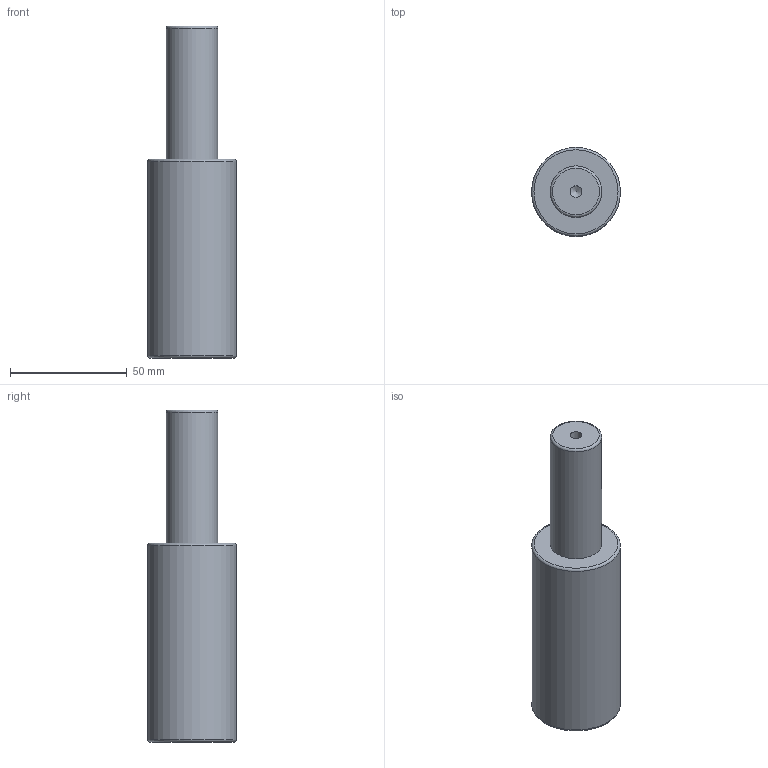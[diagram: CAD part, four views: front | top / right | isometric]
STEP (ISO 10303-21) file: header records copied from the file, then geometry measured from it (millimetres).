
FILE_DESCRIPTION(/* description */ (''),/* implementation_level */ '2;1');
FILE_NAME(/* name */ 'NV5-SMLX.38x56.stp',/* time_stamp */ '2018-08-31T16:08:35+02:00',/* author */ (''),/* organization */ (''),/* preprocessor_version */ 'ST-DEVELOPER v16',/* originating_system */ 'SIEMENS PLM Software NX 10.0',/* authorisation */ '');
FILE_SCHEMA (('AUTOMOTIVE_DESIGN { 1 0 10303 214 3 1 1 1 }'));
Length unit declared in the file: millimetre
Products named in the file (1): NV5-SMLX.38x56
Bounding box: 38 x 38 x 142 mm (x, y, z)
Volume: 117170.6 mm3; surface area: 16745.6 mm2
Topology: 1 solids, 1 shells, 12 faces, 24 edges, 15 vertices
Faces by surface type: cylinder 4, torus 3, plane 3, cone 2
Full cylindrical faces by diameter (mm): 5 x1, 6.8 x1, 22 x1, 38 x1
Entity records: 266 total; most frequent: DIRECTION 48, CARTESIAN_POINT 37, FACE_BOUND 24, AXIS2_PLACEMENT_3D 24, EDGE_LOOP 22, ORIENTED_EDGE 22, VERTEX_POINT 13, ADVANCED_FACE 12
